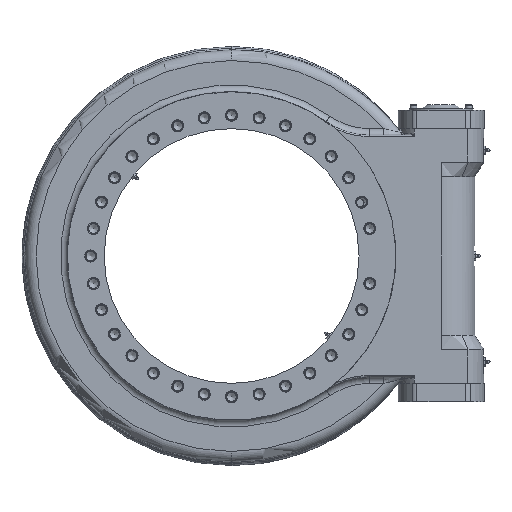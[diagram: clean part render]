
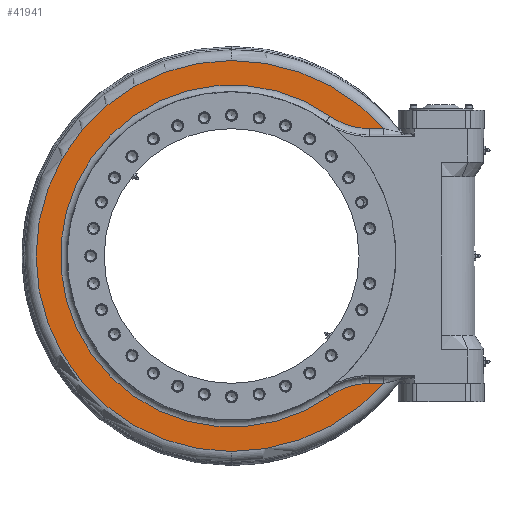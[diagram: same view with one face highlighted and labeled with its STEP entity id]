
A CAD part, left-side view. The second image highlights one B-rep face of the part: STEP entity #41941.
In plain terms, the highlighted planar face has unit normal (-1, 0, 0).
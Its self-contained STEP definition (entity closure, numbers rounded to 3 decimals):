
#311 = CARTESIAN_POINT ( 'NONE',  ( -38., 0., 0. ) ) ;
#1820 = CARTESIAN_POINT ( 'NONE',  ( -38., -205.39, -190. ) ) ;
#2813 = EDGE_LOOP ( 'NONE', ( #13629, #5140, #13060, #22561, #11275, #42592, #5251, #45958 ) ) ;
#3528 = EDGE_CURVE ( 'NONE', #34161, #23890, #15951, .T. ) ;
#4154 = CARTESIAN_POINT ( 'NONE',  ( -38., -205.39, -190. ) ) ;
#5140 = ORIENTED_EDGE ( 'NONE', *, *, #30222, .T. ) ;
#5251 = ORIENTED_EDGE ( 'NONE', *, *, #26861, .T. ) ;
#5403 = CIRCLE ( 'NONE', #31123, 102. ) ;
#5743 = AXIS2_PLACEMENT_3D ( 'NONE', #24170, #27756, #10171 ) ;
#6170 = CARTESIAN_POINT ( 'NONE',  ( -38., -146.707, -208.571 ) ) ;
#6287 = AXIS2_PLACEMENT_3D ( 'NONE', #45491, #46096, #24765 ) ;
#6800 = CIRCLE ( 'NONE', #5743, 304. ) ;
#6944 = CARTESIAN_POINT ( 'NONE',  ( -38., 0., 12.5 ) ) ;
#7467 = DIRECTION ( 'NONE',  ( -1., 0., 0. ) ) ;
#9408 = CARTESIAN_POINT ( 'NONE',  ( -38., -146.707, 208.571 ) ) ;
#9786 = VERTEX_POINT ( 'NONE', #36125 ) ;
#10171 = DIRECTION ( 'NONE',  ( 0., 0., 1. ) ) ;
#11275 = ORIENTED_EDGE ( 'NONE', *, *, #14281, .T. ) ;
#11343 = DIRECTION ( 'NONE',  ( 0., 0., 1. ) ) ;
#11480 = VERTEX_POINT ( 'NONE', #18295 ) ;
#11482 = VECTOR ( 'NONE', #18326, 1000. ) ;
#13060 = ORIENTED_EDGE ( 'NONE', *, *, #31163, .T. ) ;
#13623 = EDGE_CURVE ( 'NONE', #44207, #9786, #26637, .T. ) ;
#13629 = ORIENTED_EDGE ( 'NONE', *, *, #24465, .T. ) ;
#14281 = EDGE_CURVE ( 'NONE', #9786, #11480, #42675, .T. ) ;
#15951 = CIRCLE ( 'NONE', #6287, 255. ) ;
#16843 = DIRECTION ( 'NONE',  ( 0., 0., 1. ) ) ;
#17857 = CARTESIAN_POINT ( 'NONE',  ( -38., -235.287, 190. ) ) ;
#18295 = CARTESIAN_POINT ( 'NONE',  ( -38., -226.737, -190. ) ) ;
#18311 = DIRECTION ( 'NONE',  ( 0., 0., 1. ) ) ;
#18326 = DIRECTION ( 'NONE',  ( 0., -1., 0. ) ) ;
#22561 = ORIENTED_EDGE ( 'NONE', *, *, #13623, .T. ) ;
#22570 = AXIS2_PLACEMENT_3D ( 'NONE', #311, #7467, #11343 ) ;
#23071 = VERTEX_POINT ( 'NONE', #39620 ) ;
#23890 = VERTEX_POINT ( 'NONE', #9408 ) ;
#24170 = CARTESIAN_POINT ( 'NONE',  ( -38., 0., -12.5 ) ) ;
#24465 = EDGE_CURVE ( 'NONE', #23890, #23071, #5403, .T. ) ;
#24765 = DIRECTION ( 'NONE',  ( 0., 0., 1. ) ) ;
#26388 = AXIS2_PLACEMENT_3D ( 'NONE', #6944, #28392, #38903 ) ;
#26546 = DIRECTION ( 'NONE',  ( 0., 1., 0. ) ) ;
#26637 = CIRCLE ( 'NONE', #29920, 291.5 ) ;
#26861 = EDGE_CURVE ( 'NONE', #42616, #34161, #31186, .T. ) ;
#27756 = DIRECTION ( 'NONE',  ( -1., 0., 0. ) ) ;
#28392 = DIRECTION ( 'NONE',  ( -1., 0., 0. ) ) ;
#29920 = AXIS2_PLACEMENT_3D ( 'NONE', #45755, #34350, #41686 ) ;
#30222 = EDGE_CURVE ( 'NONE', #23071, #38223, #41548, .T. ) ;
#30401 = CARTESIAN_POINT ( 'NONE',  ( -38., 0., 291.5 ) ) ;
#31123 = AXIS2_PLACEMENT_3D ( 'NONE', #38065, #45628, #16843 ) ;
#31163 = EDGE_CURVE ( 'NONE', #38223, #44207, #6800, .T. ) ;
#31186 = CIRCLE ( 'NONE', #45679, 102. ) ;
#32527 = FACE_OUTER_BOUND ( 'NONE', #2813, .T. ) ;
#33330 = LINE ( 'NONE', #1820, #34411 ) ;
#34161 = VERTEX_POINT ( 'NONE', #6170 ) ;
#34350 = DIRECTION ( 'NONE',  ( -1., 0., 0. ) ) ;
#34411 = VECTOR ( 'NONE', #26546, 1000. ) ;
#36125 = CARTESIAN_POINT ( 'NONE',  ( -38., 0., -291.5 ) ) ;
#38065 = CARTESIAN_POINT ( 'NONE',  ( -38., -205.39, 292. ) ) ;
#38223 = VERTEX_POINT ( 'NONE', #44932 ) ;
#38903 = DIRECTION ( 'NONE',  ( 0., 0., 1. ) ) ;
#39620 = CARTESIAN_POINT ( 'NONE',  ( -38., -205.39, 190. ) ) ;
#39623 = PLANE ( 'NONE',  #22570 ) ;
#40521 = CARTESIAN_POINT ( 'NONE',  ( -38., -205.39, -292. ) ) ;
#40682 = DIRECTION ( 'NONE',  ( -1., 0., 0. ) ) ;
#40870 = EDGE_CURVE ( 'NONE', #11480, #42616, #33330, .T. ) ;
#41548 = LINE ( 'NONE', #17857, #11482 ) ;
#41686 = DIRECTION ( 'NONE',  ( 0., 0., 1. ) ) ;
#41941 = ADVANCED_FACE ( 'NONE', ( #32527 ), #39623, .T. ) ;
#42592 = ORIENTED_EDGE ( 'NONE', *, *, #40870, .T. ) ;
#42616 = VERTEX_POINT ( 'NONE', #4154 ) ;
#42675 = CIRCLE ( 'NONE', #26388, 304. ) ;
#44207 = VERTEX_POINT ( 'NONE', #30401 ) ;
#44932 = CARTESIAN_POINT ( 'NONE',  ( -38., -226.737, 190. ) ) ;
#45491 = CARTESIAN_POINT ( 'NONE',  ( -38., 0., 0. ) ) ;
#45628 = DIRECTION ( 'NONE',  ( -1., 0., 0. ) ) ;
#45679 = AXIS2_PLACEMENT_3D ( 'NONE', #40521, #40682, #18311 ) ;
#45755 = CARTESIAN_POINT ( 'NONE',  ( -38., 0., 0. ) ) ;
#45958 = ORIENTED_EDGE ( 'NONE', *, *, #3528, .T. ) ;
#46096 = DIRECTION ( 'NONE',  ( 1., 0., 0. ) ) ;
